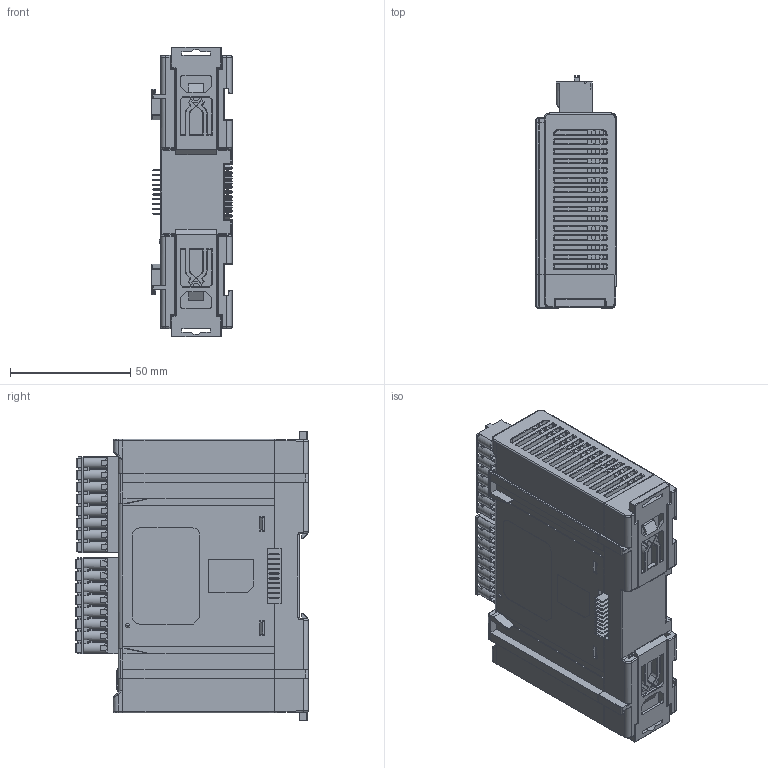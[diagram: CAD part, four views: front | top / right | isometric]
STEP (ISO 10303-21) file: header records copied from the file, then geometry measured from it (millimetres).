
FILE_DESCRIPTION((''),'2;1');
FILE_NAME('DTM-IO','2021-03-02T',('BRAD.PENG'),(''),'PRO/ENGINEER BY PARAMETRIC TECHNOLOGY CORPORATION, 2012360','PRO/ENGINEER BY PARAMETRIC TECHNOLOGY CORPORATION, 2012360','');
FILE_SCHEMA(('CONFIG_CONTROL_DESIGN','GEOMETRIC_VALIDATION_PROPERTIES_MIM'));
Products named in the file (1): DTM-IO
Bounding box: 33.5 x 96.85 x 120.8 mm (x, y, z)
Volume: 253038.9 mm3; surface area: 80711.2 mm2
Topology: 1 solids, 5 shells, 3799 faces, 10592 edges, 6810 vertices
Faces by surface type: plane 2429, cylinder 953, bspline 207, cone 143, torus 41, sphere 26
Entity records: 164829 total; most frequent: CARTESIAN_POINT 42703, ORIENTED_EDGE 21128, DIRECTION 18126, EDGE_CURVE 10564, VECTOR 7416, LINE 7416, VERTEX_POINT 6810, AXIS2_PLACEMENT_3D 5355
